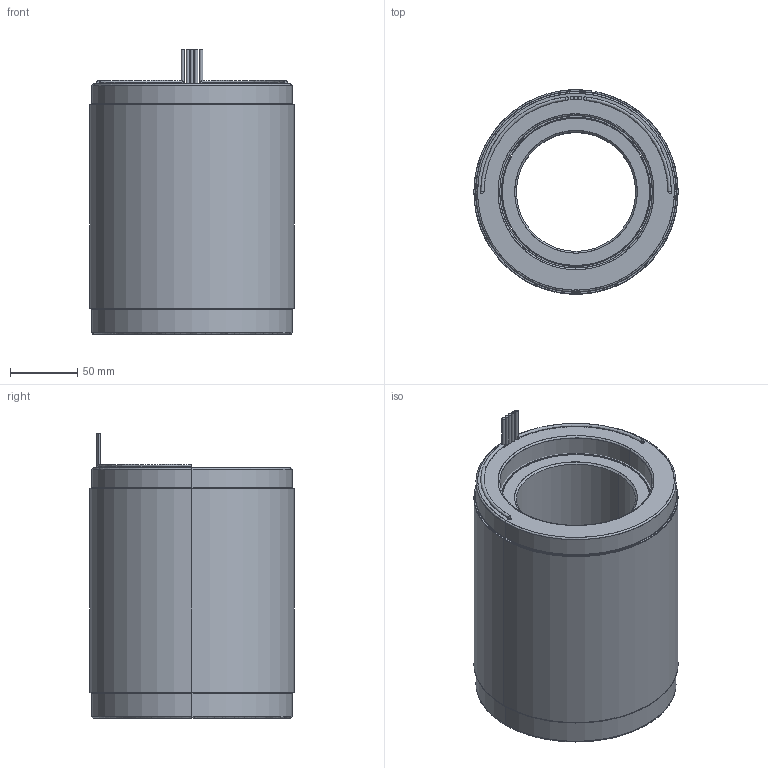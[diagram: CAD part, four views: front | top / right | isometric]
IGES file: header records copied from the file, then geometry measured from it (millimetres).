
Start section: SolidWorks IGES file using analytic representation for surfaces
Global section: file name: Z:\STANDARD STATOR ROTOR SETS\NEW DIRECT DRIVE MOTOR\6 OD 18S16P\6100338-04.IGS; native system: SolidWorks 2016; preprocessor: SolidWorks 2016; author: eng; date: 191023.153420; units: millimetre
Bounding box: 152.4 x 152.39 x 212.09 mm (x, y, z)
Surface area: 482917.8 mm2 (no closed solid volume)
Topology: 0 solids, 0 shells, 128 faces, 2952 edges, 2952 vertices
Faces by surface type: bspline 66, revolution 62
